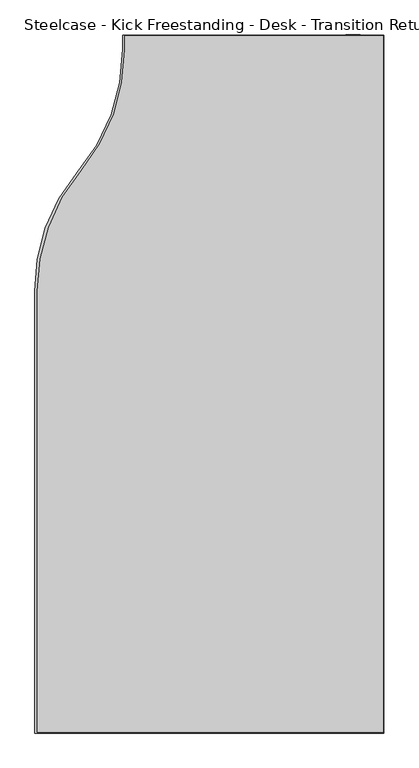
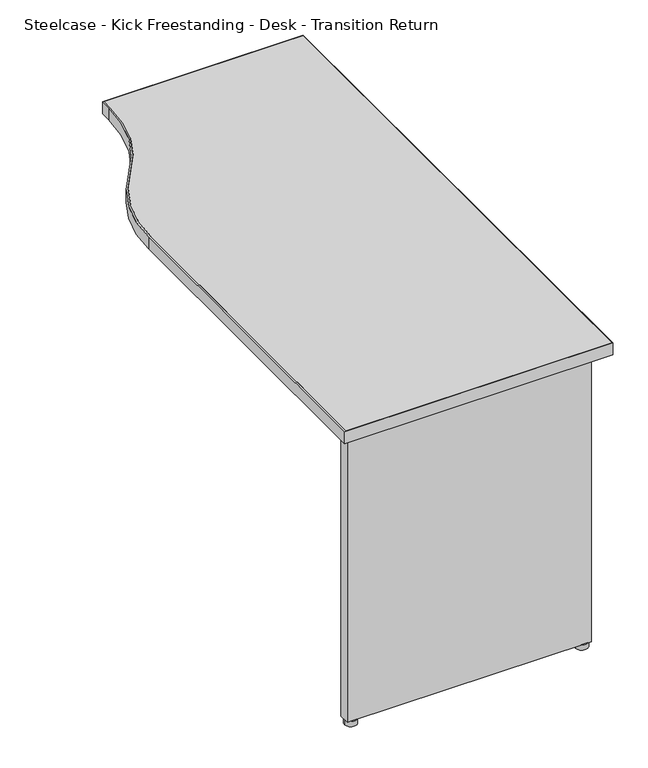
"""IFC4 building model written with IfcOpenShell, lengths in millimetres: furniture geometry, Steelcase - Kick Freestanding - Desk - Transition Return : 18D x 48W - Right - Full Panel."""

from ifc_helpers import new_model, si_unit, point, frame, frame_2d, origin, origin_with_axes, place, context, project, spatial, polyline, circle_curve, trimmed, segment, composite_curve, outline, extrude, source, transform, mapped, element, save


def steelcase_kick_freestanding_desk_transition_return_342daa4c(model_context):
    return source(origin(), model_context, "Body", "SweptSolid", [
        extrude(outline(composite_curve([segment(polyline([(1707.9294594, -546.8145152), (2163.8594425, -546.8145152), (2163.8594425, -1766.0145152), (1554.2594425, -1766.0145152), (1554.2594425, -994.1085152)]), True, "CONTINUOUS"), segment(trimmed(circle_curve(frame_2d((1864.0239413, -987.7058619)), 309.8306613), [point((1554.2594425, -994.1085152))], [point((1628.457587, -786.4509703))], False, "CARTESIAN"), True, "CONTINUOUS"), segment(trimmed(circle_curve(frame_2d((1376.3728371, -571.0836731)), 331.5566223), [point((1628.457587, -786.4509703))], [point((1707.9294594, -571.0836731))], True, "CARTESIAN"), True, "CONTINUOUS"), segment(polyline([(1707.9294594, -571.0836731), (1707.9294594, -546.8145152)]), True, "CONTINUOUS")], self_intersect=False), holes=[composite_curve([segment(polyline([(1710.9012257, -547.8051152), (1710.9012257, -572.1320079)]), True, "CONTINUOUS"), segment(trimmed(circle_curve(frame_2d((1386.0725345, -574.5942763)), 324.8380233), [point((1710.9012257, -572.1320079))], [point((1635.1600947, -783.1011797))], False, "CARTESIAN"), True, "CONTINUOUS"), segment(trimmed(circle_curve(frame_2d((1887.2347336, -994.1085152)), 328.7335079), [point((1635.1600947, -783.1011797))], [point((1558.5012257, -994.1085152))], True, "CARTESIAN"), True, "CONTINUOUS"), segment(polyline([(1558.5012257, -994.1085152), (1558.5012257, -1764.2619332), (2162.8688425, -1764.2619332), (2162.8688425, -547.8051152), (1710.9012257, -547.8051152)]), True, "CONTINUOUS")], self_intersect=False)]), frame((0.0, 0.0, 694.944), z_axis=(0.0, 0.0, 1.0), x_axis=(1.0, 0.0, 0.0)), (0.0, 0.0, 1.0), 28.956),
        extrude(outline(composite_curve([segment(polyline([(2162.8688425, -547.8051152), (2162.8688425, -1764.2619332), (1558.5012257, -1764.2619332), (1558.5012257, -994.1085152)]), True, "CONTINUOUS"), segment(trimmed(circle_curve(frame_2d((1887.2347336, -994.1085152)), 328.7335079), [point((1558.5012257, -994.1085152))], [point((1635.1600947, -783.1011797))], False, "CARTESIAN"), True, "CONTINUOUS"), segment(trimmed(circle_curve(frame_2d((1386.0725345, -574.5942763)), 324.8380233), [point((1635.1600947, -783.1011797))], [point((1710.9012257, -572.1320079))], True, "CARTESIAN"), True, "CONTINUOUS"), segment(polyline([(1710.9012257, -572.1320079), (1710.9012257, -547.8051152), (2162.8688425, -547.8051152)]), True, "CONTINUOUS")], self_intersect=False)), frame((0.0, 0.0, 694.944), z_axis=(0.0, 0.0, 1.0), x_axis=(1.0, 0.0, 0.0)), (0.0, 0.0, 1.0), 28.956),
        extrude(outline(composite_curve([segment(trimmed(circle_curve(frame_2d((2107.4714425, -1740.7669041)), 13.97), [point((2121.4414425, -1740.7669041))], [point((2093.5014425, -1740.7669041))], False, "CARTESIAN"), True, "CONTINUOUS"), segment(trimmed(circle_curve(frame_2d((2107.4714425, -1740.7669041)), 13.97), [point((2093.5014425, -1740.7669041))], [point((2121.4414425, -1740.7669041))], False, "CARTESIAN"), True, "CONTINUOUS")], self_intersect=False)), origin_with_axes(), (0.0, 0.0, 1.0), 12.7),
        extrude(outline(composite_curve([segment(trimmed(circle_curve(frame_2d((1582.4534425, -1740.7669041)), 13.97), [point((1596.4234425, -1740.7669041))], [point((1568.4834425, -1740.7669041))], False, "CARTESIAN"), True, "CONTINUOUS"), segment(trimmed(circle_curve(frame_2d((1582.4534425, -1740.7669041)), 13.97), [point((1568.4834425, -1740.7669041))], [point((1596.4234425, -1740.7669041))], False, "CARTESIAN"), True, "CONTINUOUS")], self_intersect=False)), origin_with_axes(), (0.0, 0.0, 1.0), 12.7),
        extrude(outline(polyline([(2122.7114425, -1728.0669041), (2122.7114425, -1752.5525152), (1568.2294473, -1752.5525152), (1568.2294473, -1728.0669041), (1691.2670317, -1728.0669041), (1691.2670317, -1750.4951136), (1790.9874347, -1750.4951136), (1790.9874347, -1728.0669041), (1899.7248382, -1728.0669041), (1899.7248382, -1750.4951136), (1999.4452412, -1750.4951136), (1999.4452412, -1728.0669041), (2122.7114425, -1728.0669041)])), frame((0.0, 0.0, 12.7), z_axis=(0.0, 0.0, 1.0), x_axis=(1.0, 0.0, 0.0)), (0.0, 0.0, 1.0), 682.244),
        extrude(outline(polyline([(2097.3114424, -546.0525152), (2122.7114425, -546.0525152), (2122.7114425, -1728.0669041), (2097.3114424, -1728.0669041), (2097.3114424, -546.0525152)])), frame((0.0, 0.0, 31.242), z_axis=(0.0, 0.0, 1.0), x_axis=(1.0, 0.0, 0.0)), (0.0, 0.0, 1.0), 663.702),
    ])


if __name__ == "__main__":
    model = new_model("IFC4")
    model_context = context("Model", 3, world=origin())
    ifc_project = project(units=[si_unit("LENGTHUNIT", "METRE", prefix="MILLI")], contexts=[model_context])
    site = spatial("IfcSite", under=ifc_project)
    building = spatial("IfcBuilding", under=site)
    placement = place(None, origin())
    steelcase_kick_freestanding_desk_transition_return_shape = steelcase_kick_freestanding_desk_transition_return_342daa4c(model_context)
    element("IfcFurniture", 1, ObjectType="Steelcase - Kick Freestanding - Desk - Transition Return : 18D x 48W - Right - Full Panel", at=placement, inside=building, context=model_context, shape_type="MappedRepresentation", body=[
        mapped(steelcase_kick_freestanding_desk_transition_return_shape, transform((0.0, 0.0, 0.0), x_axis=(1.0, 0.0, 0.0), y_axis=(0.0, 1.0, 0.0), z_axis=(0.0, 0.0, 1.0))),
    ])
    save(model, "model.ifc")
